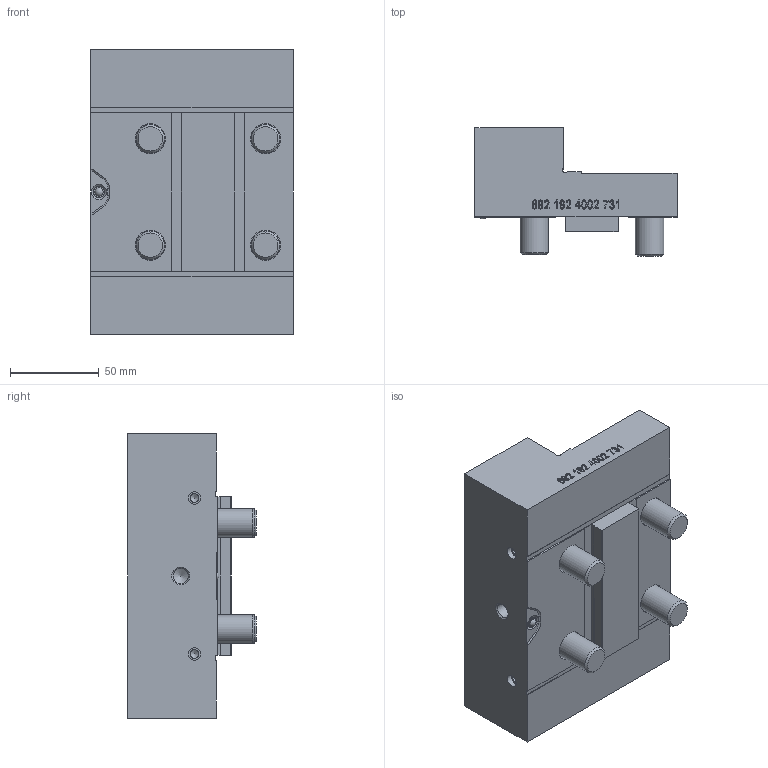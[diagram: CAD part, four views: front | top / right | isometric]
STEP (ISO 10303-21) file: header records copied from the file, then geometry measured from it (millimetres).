
FILE_DESCRIPTION (( 'STEP AP214' ), '1' );
FILE_NAME ('6921924002731.STEP', '2019-07-15T10:39:29', ( '' ), ( '' ), 'SwSTEP 2.0', 'SolidWorks 2018', '' );
FILE_SCHEMA (( 'AUTOMOTIVE_DESIGN' ));
Length unit declared in the file: millimetre
Products named in the file (4): 8006101630050_DIN 912 M16 x 30 --- 30N; 8006101655050_DIN 912 M16 x 55 --- 55N; 6921924002731; 6921924002740
Assembly tree (5 placements, depth 2):
  6921924002731
    6921924002740
    8006101630050_DIN 912 M16 x 30 --- 30N  x2
    8006101655050_DIN 912 M16 x 55 --- 55N  x2
Bounding box: 114 x 72.3 x 160.4 mm (x, y, z)
Volume: 676688.3 mm3; surface area: 91137.8 mm2
Topology: 6 solids, 6 shells, 336 faces, 833 edges, 542 vertices
Faces by surface type: plane 175, bspline 99, cylinder 32, cone 16, torus 13, sphere 1
Full cylindrical faces by diameter (mm): 4.2 x2, 5 x2, 5.98 x1, 6 x2, 7 x4, 8.5 x1, 16 x4, 17 x4, 24 x4, 25 x4
Entity records: 14444 total; most frequent: CARTESIAN_POINT 7995, ORIENTED_EDGE 1368, DIRECTION 972, EDGE_CURVE 684, VERTEX_POINT 472, VECTOR 402, LINE 402, EDGE_LOOP 376
